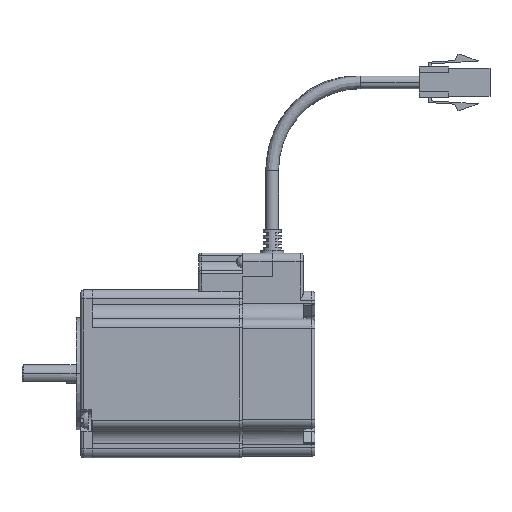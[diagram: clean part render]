
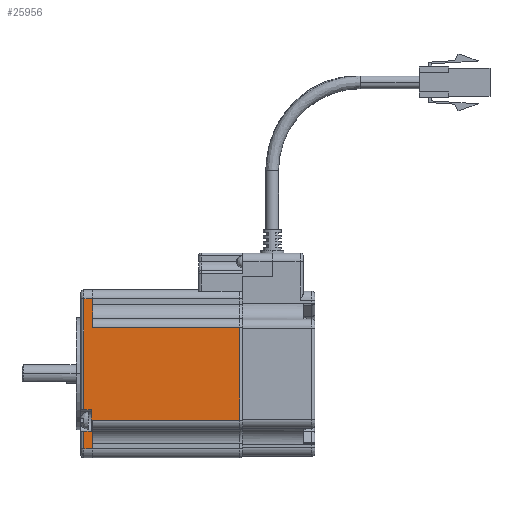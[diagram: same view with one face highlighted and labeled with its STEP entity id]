
A CAD part, top view. The second image highlights one B-rep face of the part: STEP entity #25956.
In plain terms, the highlighted planar face has unit normal (0, 0, 1) as drawn and (-1, 0, 0) by its records, which use the part's own axes.
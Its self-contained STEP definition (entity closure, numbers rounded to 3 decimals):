
#164 = CARTESIAN_POINT ( 'NONE',  ( 63.711, -21.243, 51. ) ) ;
#218 = VERTEX_POINT ( 'NONE', #8386 ) ;
#533 = CARTESIAN_POINT ( 'NONE',  ( 63.711, -65.513, 51. ) ) ;
#659 = DIRECTION ( 'NONE',  ( 0., 1., 0. ) ) ;
#766 = CARTESIAN_POINT ( 'NONE',  ( 63.711, -21.243, 0. ) ) ;
#916 = EDGE_CURVE ( 'NONE', #5329, #28961, #5146, .T. ) ;
#935 = CARTESIAN_POINT ( 'NONE',  ( 63.711, -21.243, 54. ) ) ;
#1148 = CARTESIAN_POINT ( 'NONE',  ( 63.711, -33.973, 51. ) ) ;
#1563 = DIRECTION ( 'NONE',  ( 0., 1., 0. ) ) ;
#1642 = VECTOR ( 'NONE', #20785, 1000. ) ;
#1771 = LINE ( 'NONE', #9859, #12553 ) ;
#1810 = CARTESIAN_POINT ( 'NONE',  ( 63.711, -75.243, 51. ) ) ;
#2515 = DIRECTION ( 'NONE',  ( 0., -1., 0. ) ) ;
#3112 = DIRECTION ( 'NONE',  ( -1., 0., 0. ) ) ;
#3300 = VERTEX_POINT ( 'NONE', #10961 ) ;
#3476 = DIRECTION ( 'NONE',  ( 0., 0., 1. ) ) ;
#3935 = VERTEX_POINT ( 'NONE', #19810 ) ;
#4101 = VECTOR ( 'NONE', #26668, 1000. ) ;
#4377 = ORIENTED_EDGE ( 'NONE', *, *, #20861, .T. ) ;
#4475 = LINE ( 'NONE', #16729, #5216 ) ;
#4652 = CARTESIAN_POINT ( 'NONE',  ( 63.711, -65.513, 0. ) ) ;
#5146 = LINE ( 'NONE', #6963, #20453 ) ;
#5216 = VECTOR ( 'NONE', #659, 1000. ) ;
#5329 = VERTEX_POINT ( 'NONE', #11688 ) ;
#5358 = VERTEX_POINT ( 'NONE', #8859 ) ;
#5518 = LINE ( 'NONE', #1148, #22884 ) ;
#5590 = ORIENTED_EDGE ( 'NONE', *, *, #7124, .T. ) ;
#6180 = LINE ( 'NONE', #935, #28501 ) ;
#6336 = LINE ( 'NONE', #16250, #23642 ) ;
#6380 = VECTOR ( 'NONE', #11347, 1000. ) ;
#6508 = DIRECTION ( 'NONE',  ( 0., 0., -1. ) ) ;
#6952 = DIRECTION ( 'NONE',  ( 0., 0., 1. ) ) ;
#6963 = CARTESIAN_POINT ( 'NONE',  ( 63.711, -37.543, 0. ) ) ;
#7124 = EDGE_CURVE ( 'NONE', #23451, #5329, #6180, .T. ) ;
#8386 = CARTESIAN_POINT ( 'NONE',  ( 63.711, -24.243, 54. ) ) ;
#8859 = CARTESIAN_POINT ( 'NONE',  ( 63.711, -30.143, 51.5 ) ) ;
#8920 = CARTESIAN_POINT ( 'NONE',  ( 63.711, -75.243, 54. ) ) ;
#9043 = CARTESIAN_POINT ( 'NONE',  ( 63.711, -75.243, 0. ) ) ;
#9820 = DIRECTION ( 'NONE',  ( 0., 0., 1. ) ) ;
#9859 = CARTESIAN_POINT ( 'NONE',  ( 63.711, -30.143, 0. ) ) ;
#10349 = ORIENTED_EDGE ( 'NONE', *, *, #15930, .F. ) ;
#10961 = CARTESIAN_POINT ( 'NONE',  ( 63.711, -24.243, 51. ) ) ;
#11042 = VERTEX_POINT ( 'NONE', #25232 ) ;
#11277 = LINE ( 'NONE', #18658, #27506 ) ;
#11325 = VECTOR ( 'NONE', #6952, 1000. ) ;
#11347 = DIRECTION ( 'NONE',  ( 0., 0., 1. ) ) ;
#11688 = CARTESIAN_POINT ( 'NONE',  ( 63.711, -37.543, 54. ) ) ;
#11825 = DIRECTION ( 'NONE',  ( 0., 1., 0. ) ) ;
#12553 = VECTOR ( 'NONE', #9820, 1000. ) ;
#12992 = ORIENTED_EDGE ( 'NONE', *, *, #13270, .T. ) ;
#13270 = EDGE_CURVE ( 'NONE', #5358, #18125, #1771, .T. ) ;
#13702 = ORIENTED_EDGE ( 'NONE', *, *, #916, .T. ) ;
#13786 = CARTESIAN_POINT ( 'NONE',  ( 63.711, -30.143, 54. ) ) ;
#14477 = VERTEX_POINT ( 'NONE', #533 ) ;
#14550 = PLANE ( 'NONE',  #20421 ) ;
#14942 = VECTOR ( 'NONE', #21103, 1000. ) ;
#15638 = EDGE_CURVE ( 'NONE', #11042, #14477, #28933, .T. ) ;
#15688 = EDGE_CURVE ( 'NONE', #18125, #218, #4475, .T. ) ;
#15850 = ORIENTED_EDGE ( 'NONE', *, *, #15688, .T. ) ;
#15930 = EDGE_CURVE ( 'NONE', #11042, #3935, #22235, .T. ) ;
#16250 = CARTESIAN_POINT ( 'NONE',  ( 63.711, -21.243, 51. ) ) ;
#16364 = EDGE_CURVE ( 'NONE', #3935, #26197, #5518, .T. ) ;
#16717 = EDGE_CURVE ( 'NONE', #28961, #5358, #11277, .T. ) ;
#16729 = CARTESIAN_POINT ( 'NONE',  ( 63.711, -21.243, 54. ) ) ;
#17085 = CARTESIAN_POINT ( 'NONE',  ( 63.711, -37.543, 51.5 ) ) ;
#17775 = LINE ( 'NONE', #164, #1642 ) ;
#18125 = VERTEX_POINT ( 'NONE', #13786 ) ;
#18436 = ORIENTED_EDGE ( 'NONE', *, *, #21294, .T. ) ;
#18658 = CARTESIAN_POINT ( 'NONE',  ( 63.711, -21.243, 51.5 ) ) ;
#18852 = CARTESIAN_POINT ( 'NONE',  ( 63.711, -24.243, 0. ) ) ;
#19115 = DIRECTION ( 'NONE',  ( 0., 0., 1. ) ) ;
#19540 = ORIENTED_EDGE ( 'NONE', *, *, #27825, .T. ) ;
#19810 = CARTESIAN_POINT ( 'NONE',  ( 63.711, -33.973, 1. ) ) ;
#19975 = CARTESIAN_POINT ( 'NONE',  ( 63.711, -33.973, 51. ) ) ;
#20244 = ORIENTED_EDGE ( 'NONE', *, *, #16364, .F. ) ;
#20339 = ORIENTED_EDGE ( 'NONE', *, *, #28417, .T. ) ;
#20421 = AXIS2_PLACEMENT_3D ( 'NONE', #766, #3112, #19115 ) ;
#20453 = VECTOR ( 'NONE', #6508, 1000. ) ;
#20785 = DIRECTION ( 'NONE',  ( 0., -1., 0. ) ) ;
#20861 = EDGE_CURVE ( 'NONE', #218, #3300, #20940, .T. ) ;
#20940 = LINE ( 'NONE', #18852, #14942 ) ;
#21103 = DIRECTION ( 'NONE',  ( 0., 0., -1. ) ) ;
#21126 = VERTEX_POINT ( 'NONE', #1810 ) ;
#21294 = EDGE_CURVE ( 'NONE', #3300, #26197, #6336, .T. ) ;
#22235 = LINE ( 'NONE', #24529, #4101 ) ;
#22884 = VECTOR ( 'NONE', #3476, 1000. ) ;
#23244 = EDGE_LOOP ( 'NONE', ( #10349, #28667, #20339, #19540, #5590, #13702, #26353, #12992, #15850, #4377, #18436, #20244 ) ) ;
#23451 = VERTEX_POINT ( 'NONE', #8920 ) ;
#23642 = VECTOR ( 'NONE', #2515, 1000. ) ;
#24105 = FACE_OUTER_BOUND ( 'NONE', #23244, .T. ) ;
#24342 = LINE ( 'NONE', #9043, #6380 ) ;
#24529 = CARTESIAN_POINT ( 'NONE',  ( 63.711, -65.513, 1. ) ) ;
#25232 = CARTESIAN_POINT ( 'NONE',  ( 63.711, -65.513, 1. ) ) ;
#25956 = ADVANCED_FACE ( 'NONE', ( #24105 ), #14550, .T. ) ;
#26197 = VERTEX_POINT ( 'NONE', #19975 ) ;
#26353 = ORIENTED_EDGE ( 'NONE', *, *, #16717, .T. ) ;
#26668 = DIRECTION ( 'NONE',  ( 0., 1., 0. ) ) ;
#27506 = VECTOR ( 'NONE', #11825, 1000. ) ;
#27825 = EDGE_CURVE ( 'NONE', #21126, #23451, #24342, .T. ) ;
#28417 = EDGE_CURVE ( 'NONE', #14477, #21126, #17775, .T. ) ;
#28501 = VECTOR ( 'NONE', #1563, 1000. ) ;
#28667 = ORIENTED_EDGE ( 'NONE', *, *, #15638, .T. ) ;
#28933 = LINE ( 'NONE', #4652, #11325 ) ;
#28961 = VERTEX_POINT ( 'NONE', #17085 ) ;
